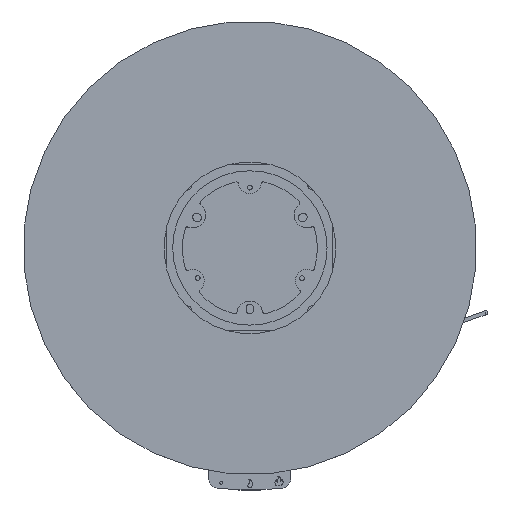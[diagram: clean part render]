
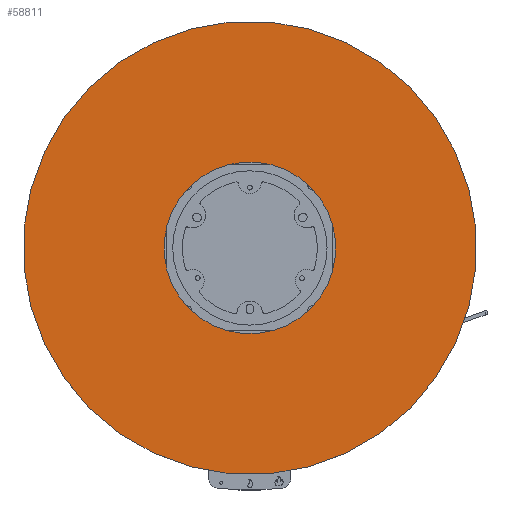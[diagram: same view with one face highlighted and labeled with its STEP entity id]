
A CAD part, top view. The second image highlights one B-rep face of the part: STEP entity #58811.
In plain terms, the highlighted planar face has unit normal (0, 0, 1).
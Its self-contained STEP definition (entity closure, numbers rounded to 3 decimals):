
#995=FACE_BOUND('',#11393,.T.);
#3568=CIRCLE('',#64360,89.);
#3570=CIRCLE('',#64363,235.);
#5045=PLANE('',#64365);
#7997=FACE_OUTER_BOUND('',#11392,.T.);
#11392=EDGE_LOOP('',(#51736));
#11393=EDGE_LOOP('',(#51737));
#27134=VERTEX_POINT('',#115651);
#27136=VERTEX_POINT('',#115657);
#35336=EDGE_CURVE('',#27134,#27134,#3568,.T.);
#35339=EDGE_CURVE('',#27136,#27136,#3570,.T.);
#51736=ORIENTED_EDGE('',*,*,#35339,.T.);
#51737=ORIENTED_EDGE('',*,*,#35336,.T.);
#58811=ADVANCED_FACE('',(#7997,#995),#5045,.T.);
#64360=AXIS2_PLACEMENT_3D('',#115653,#80208,#80209);
#64363=AXIS2_PLACEMENT_3D('',#115659,#80215,#80216);
#64365=AXIS2_PLACEMENT_3D('',#115661,#80219,#80220);
#80208=DIRECTION('center_axis',(0.,0.,
-1.));
#80209=DIRECTION('ref_axis',(-0.996,0.087,0.));
#80215=DIRECTION('center_axis',(0.,0.,
1.));
#80216=DIRECTION('ref_axis',(-0.996,0.087,0.));
#80219=DIRECTION('center_axis',(0.,0.,
1.));
#80220=DIRECTION('ref_axis',(-0.996,0.087,0.));
#115651=CARTESIAN_POINT('',(88.661,-7.757,504.));
#115653=CARTESIAN_POINT('Origin',(0.,0.,
504.));
#115657=CARTESIAN_POINT('',(234.106,-20.482,504.));
#115659=CARTESIAN_POINT('Origin',(0.,0.,
504.));
#115661=CARTESIAN_POINT('Origin',(0.,0.,
504.));
